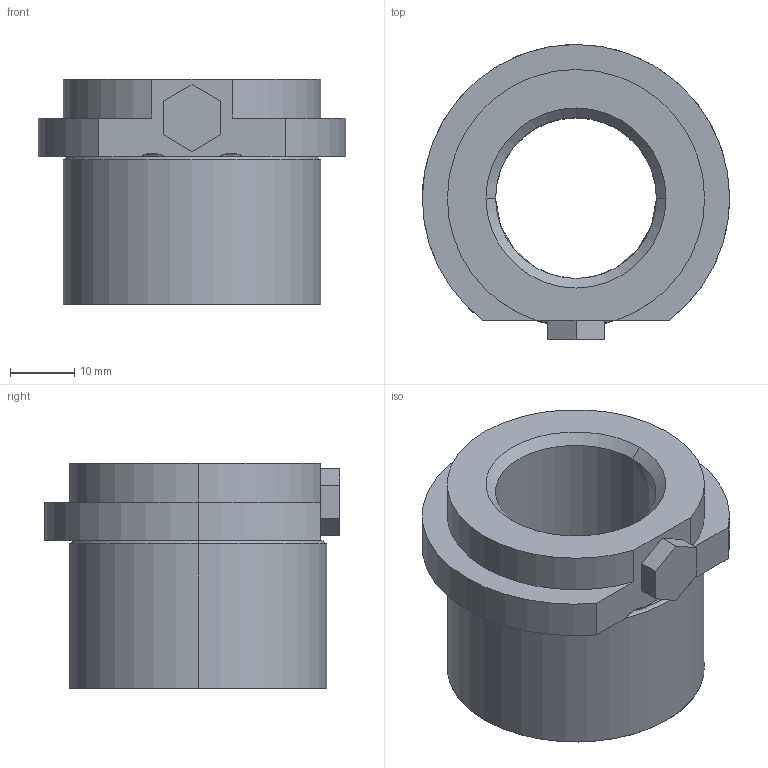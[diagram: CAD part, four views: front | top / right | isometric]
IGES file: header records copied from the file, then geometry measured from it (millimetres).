
Start section: START RECORD GO HERE.
Global section: file name: 740-25.igs; native system: DASSAULT SYSTEMES CATIA V5 R20 - www.3ds.com; preprocessor: CATIA Version 5 Release 20 ; author: Utente; organization: NB04-ASUS; date: 20210118.203819; units: millimetre
Bounding box: 47.8 x 45.9 x 35 mm (x, y, z)
Surface area: 9927.2 mm2 (no closed solid volume)
Topology: 0 solids, 0 shells, 35 faces, 174 edges, 174 vertices
Faces by surface type: revolution 21, plane 14
